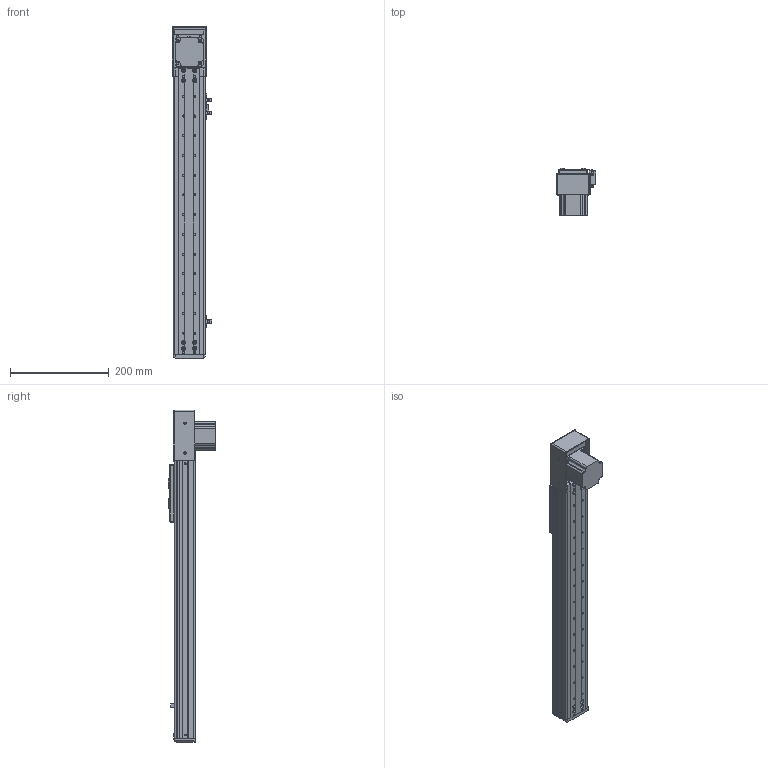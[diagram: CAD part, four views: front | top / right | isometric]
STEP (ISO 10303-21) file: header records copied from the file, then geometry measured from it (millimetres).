
FILE_DESCRIPTION (( 'STEP AP203' ), '1' );
FILE_NAME ('RY60F-T-350-DK.SLDASM_400.step', '2021-03-02T00:55:49', ( '盈信电脑' ), ( '东莞市道滘镇水果街19号' ), 'SwSTEP 2.0', 'SolidWorks 2012', '' );
FILE_SCHEMA (( 'CONFIG_CONTROL_DESIGN' ));
Length unit declared in the file: millimetre
Products named in the file (19): RY60F-肮祭湍揤輸; RY60F-T-57萇儂奻殏假蚾啣; 滅袉蝶18-24; RY60F-T-下折同步带拉紧板; RY60F-350-肮祭湍滅鳥詩え-DK_400; 覜茼ん672; RY60F-350肮祭湍俋褲-DK_400; RY50F-350-MR15W絳寢-DK_400; RY50-60詩湍揤啣; RY60F-T-下折57电机端同步轮座; RY60F-祥凄詩滅鳥裔; RY60F-浮动端同步轮支撑座; RY60F-滅鳥詩え盓殤; RY60F-嫖萇羲壽結え; RY60F-肮祭湍臏賑輸; RY60F-T-狟殏欶; 57祭輛萇儂; RY60F-T-350-DK.SLDASM_400; RY60F-肮祭湍揤輸2
Assembly tree (23 placements, depth 2):
  RY60F-T-350-DK.SLDASM_400
    RY60F-肮祭湍臏賑輸
    RY60F-浮动端同步轮支撑座
    RY60F-滅鳥詩え盓殤
    RY60F-嫖萇羲壽結え
    RY50-60詩湍揤啣  x2
    RY60F-祥凄詩滅鳥裔
    RY60F-T-下折57电机端同步轮座
    RY60F-350肮祭湍俋褲-DK_400  x2
    覜茼ん672  x3
    RY60F-350-肮祭湍滅鳥詩え-DK_400
    RY50F-350-MR15W絳寢-DK_400
    滅袉蝶18-24  x2
    RY60F-T-57萇儂奻殏假蚾啣
    RY60F-T-下折同步带拉紧板
    RY60F-肮祭湍揤輸
    RY60F-肮祭湍揤輸2
    57祭輛萇儂
    RY60F-T-狟殏欶
Bounding box: 80.76 x 96.5 x 673 mm (x, y, z)
Volume: 785667.2 mm3; surface area: 469878.8 mm2
Topology: 23 solids, 23 shells, 1158 faces, 3170 edges, 2036 vertices
Faces by surface type: plane 546, cylinder 531, cone 71, bspline 10
Entity records: 35537 total; most frequent: CARTESIAN_POINT 6457, DIRECTION 5720, ORIENTED_EDGE 5516, EDGE_CURVE 2758, AXIS2_PLACEMENT_3D 2007, VERTEX_POINT 1804, VECTOR 1706, LINE 1706
